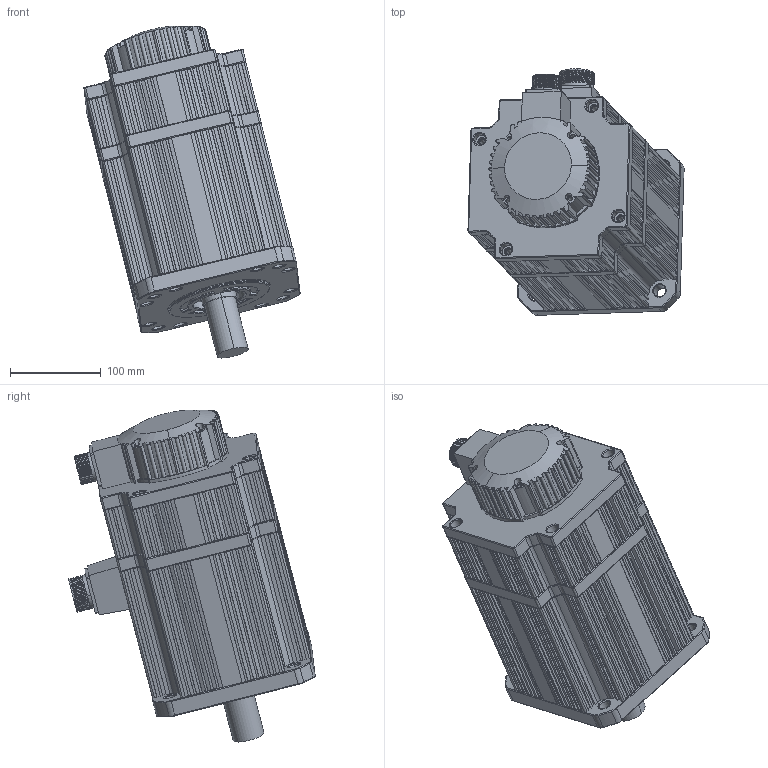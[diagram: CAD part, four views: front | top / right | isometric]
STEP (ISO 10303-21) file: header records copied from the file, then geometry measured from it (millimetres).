
FILE_DESCRIPTION (( 'STEP AP203' ), '1' );
FILE_NAME ('180 19N.M抱闸装配.STEP', '2019-04-19T08:39:11', ( '微软用户' ), ( '微软中国' ), 'SwSTEP 2.0', 'SolidWorks 2016', '' );
FILE_SCHEMA (( 'CONFIG_CONTROL_DESIGN' ));
Length unit declared in the file: millimetre
Products named in the file (14): 180綴裔; 諉芛; 粣創揤啣; 惕掅儂褲; 180儂褲; 180綴欶; 180ヶ裔; 15郋瑤脣; 諉盄釱; 15郋瑤脣釱; 蛌粣; 180  19N.M惕掅蚾饜; 6208; 6207
Assembly tree (14 placements, depth 3):
  180  19N.M惕掅蚾饜
    蛌粣
    6208
    6207
    180綴裔  x2
    粣創揤啣
    180儂褲
    180ヶ裔
    諉盄釱
    諉芛
    惕掅儂褲
    180綴欶
    15郋瑤脣釱
      15郋瑤脣
Bounding box: 238.23 x 271.55 x 365.88 mm (x, y, z)
Volume: 2990065.9 mm3; surface area: 846477 mm2
Topology: 15 solids, 15 shells, 2204 faces, 5809 edges, 3672 vertices
Faces by surface type: cylinder 897, plane 886, torus 264, sphere 98, cone 54, bspline 5
Entity records: 68506 total; most frequent: CARTESIAN_POINT 17128, DIRECTION 10570, ORIENTED_EDGE 10450, EDGE_CURVE 5225, AXIS2_PLACEMENT_3D 3838, VERTEX_POINT 3346, VECTOR 2894, LINE 2894
